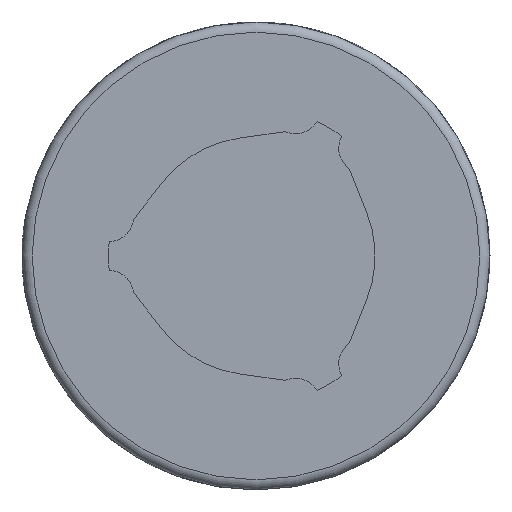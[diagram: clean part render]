
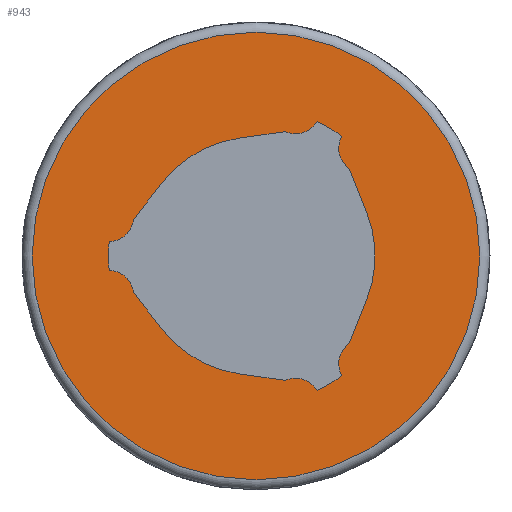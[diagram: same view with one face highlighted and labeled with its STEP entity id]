
A CAD part, left-side view. The second image highlights one B-rep face of the part: STEP entity #943.
In plain terms, the highlighted planar face has unit normal (-1, 0, 0).
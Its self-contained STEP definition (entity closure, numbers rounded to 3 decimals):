
#76=LINE('',#1439,#148);
#77=LINE('',#1448,#149);
#78=LINE('',#1452,#150);
#79=LINE('',#1460,#151);
#80=LINE('',#1464,#152);
#81=LINE('',#1472,#153);
#148=VECTOR('',#1141,1000.);
#149=VECTOR('',#1148,1000.);
#150=VECTOR('',#1151,1000.);
#151=VECTOR('',#1158,1000.);
#152=VECTOR('',#1161,1000.);
#153=VECTOR('',#1168,1000.);
#220=ORIENTED_EDGE('',*,*,#500,.F.);
#221=ORIENTED_EDGE('',*,*,#501,.T.);
#222=ORIENTED_EDGE('',*,*,#502,.F.);
#223=ORIENTED_EDGE('',*,*,#503,.T.);
#224=ORIENTED_EDGE('',*,*,#504,.F.);
#225=ORIENTED_EDGE('',*,*,#505,.T.);
#226=ORIENTED_EDGE('',*,*,#506,.T.);
#227=ORIENTED_EDGE('',*,*,#507,.T.);
#228=ORIENTED_EDGE('',*,*,#508,.F.);
#229=ORIENTED_EDGE('',*,*,#509,.T.);
#230=ORIENTED_EDGE('',*,*,#510,.F.);
#231=ORIENTED_EDGE('',*,*,#511,.T.);
#232=ORIENTED_EDGE('',*,*,#512,.T.);
#233=ORIENTED_EDGE('',*,*,#513,.T.);
#234=ORIENTED_EDGE('',*,*,#514,.F.);
#235=ORIENTED_EDGE('',*,*,#515,.T.);
#236=ORIENTED_EDGE('',*,*,#516,.F.);
#237=ORIENTED_EDGE('',*,*,#517,.T.);
#238=ORIENTED_EDGE('',*,*,#518,.T.);
#500=EDGE_CURVE('',#640,#640,#736,.T.);
#501=EDGE_CURVE('',#641,#642,#76,.T.);
#502=EDGE_CURVE('',#643,#642,#737,.T.);
#503=EDGE_CURVE('',#643,#644,#738,.T.);
#504=EDGE_CURVE('',#645,#644,#739,.T.);
#505=EDGE_CURVE('',#645,#646,#77,.T.);
#506=EDGE_CURVE('',#646,#647,#740,.T.);
#507=EDGE_CURVE('',#647,#648,#78,.T.);
#508=EDGE_CURVE('',#649,#648,#741,.T.);
#509=EDGE_CURVE('',#649,#650,#742,.T.);
#510=EDGE_CURVE('',#651,#650,#743,.T.);
#511=EDGE_CURVE('',#651,#652,#79,.T.);
#512=EDGE_CURVE('',#652,#653,#744,.T.);
#513=EDGE_CURVE('',#653,#654,#80,.T.);
#514=EDGE_CURVE('',#655,#654,#745,.T.);
#515=EDGE_CURVE('',#655,#656,#746,.T.);
#516=EDGE_CURVE('',#657,#656,#747,.T.);
#517=EDGE_CURVE('',#657,#658,#81,.T.);
#518=EDGE_CURVE('',#658,#641,#748,.T.);
#640=VERTEX_POINT('',#1438);
#641=VERTEX_POINT('',#1440);
#642=VERTEX_POINT('',#1441);
#643=VERTEX_POINT('',#1443);
#644=VERTEX_POINT('',#1445);
#645=VERTEX_POINT('',#1447);
#646=VERTEX_POINT('',#1449);
#647=VERTEX_POINT('',#1451);
#648=VERTEX_POINT('',#1453);
#649=VERTEX_POINT('',#1455);
#650=VERTEX_POINT('',#1457);
#651=VERTEX_POINT('',#1459);
#652=VERTEX_POINT('',#1461);
#653=VERTEX_POINT('',#1463);
#654=VERTEX_POINT('',#1465);
#655=VERTEX_POINT('',#1467);
#656=VERTEX_POINT('',#1469);
#657=VERTEX_POINT('',#1471);
#658=VERTEX_POINT('',#1473);
#736=CIRCLE('',#1023,11.);
#737=CIRCLE('',#1024,1.24);
#738=CIRCLE('',#1025,7.25);
#739=CIRCLE('',#1026,1.24);
#740=CIRCLE('',#1027,5.85);
#741=CIRCLE('',#1028,1.24);
#742=CIRCLE('',#1029,7.25);
#743=CIRCLE('',#1030,1.24);
#744=CIRCLE('',#1031,5.85);
#745=CIRCLE('',#1032,1.24);
#746=CIRCLE('',#1033,7.25);
#747=CIRCLE('',#1034,1.24);
#748=CIRCLE('',#1035,5.85);
#792=EDGE_LOOP('',(#220));
#793=EDGE_LOOP('',(#221,#222,#223,#224,#225,#226,#227,#228,#229,#230,#231,
#232,#233,#234,#235,#236,#237,#238));
#858=FACE_BOUND('',#792,.T.);
#859=FACE_BOUND('',#793,.T.);
#924=PLANE('',#1022);
#943=ADVANCED_FACE('',(#858,#859),#924,.F.);
#1022=AXIS2_PLACEMENT_3D('',#1436,#1137,#1138);
#1023=AXIS2_PLACEMENT_3D('',#1437,#1139,#1140);
#1024=AXIS2_PLACEMENT_3D('',#1442,#1142,#1143);
#1025=AXIS2_PLACEMENT_3D('',#1444,#1144,#1145);
#1026=AXIS2_PLACEMENT_3D('',#1446,#1146,#1147);
#1027=AXIS2_PLACEMENT_3D('',#1450,#1149,#1150);
#1028=AXIS2_PLACEMENT_3D('',#1454,#1152,#1153);
#1029=AXIS2_PLACEMENT_3D('',#1456,#1154,#1155);
#1030=AXIS2_PLACEMENT_3D('',#1458,#1156,#1157);
#1031=AXIS2_PLACEMENT_3D('',#1462,#1159,#1160);
#1032=AXIS2_PLACEMENT_3D('',#1466,#1162,#1163);
#1033=AXIS2_PLACEMENT_3D('',#1468,#1164,#1165);
#1034=AXIS2_PLACEMENT_3D('',#1470,#1166,#1167);
#1035=AXIS2_PLACEMENT_3D('',#1474,#1169,#1170);
#1137=DIRECTION('',(1.,0.,0.));
#1138=DIRECTION('',(0.,0.,-1.));
#1139=DIRECTION('',(1.,0.,0.));
#1140=DIRECTION('',(0.,0.,-1.));
#1141=DIRECTION('',(0.,-0.99,0.139));
#1142=DIRECTION('',(1.,0.,0.));
#1143=DIRECTION('',(0.,0.,-1.));
#1144=DIRECTION('',(1.,0.,0.));
#1145=DIRECTION('',(0.,0.,-1.));
#1146=DIRECTION('',(1.,0.,0.));
#1147=DIRECTION('',(0.,0.,-1.));
#1148=DIRECTION('',(0.,-0.375,-0.927));
#1149=DIRECTION('',(1.,0.,0.));
#1150=DIRECTION('',(0.,0.,-1.));
#1151=DIRECTION('',(0.,0.375,-0.927));
#1152=DIRECTION('',(1.,0.,0.));
#1153=DIRECTION('',(0.,0.,-1.));
#1154=DIRECTION('',(1.,0.,0.));
#1155=DIRECTION('',(0.,0.,-1.));
#1156=DIRECTION('',(1.,0.,0.));
#1157=DIRECTION('',(0.,0.,-1.));
#1158=DIRECTION('',(0.,0.99,0.139));
#1159=DIRECTION('',(1.,0.,0.));
#1160=DIRECTION('',(0.,0.,-1.));
#1161=DIRECTION('',(0.,0.616,0.788));
#1162=DIRECTION('',(1.,0.,0.));
#1163=DIRECTION('',(0.,0.,-1.));
#1164=DIRECTION('',(1.,0.,0.));
#1165=DIRECTION('',(0.,0.,-1.));
#1166=DIRECTION('',(1.,0.,0.));
#1167=DIRECTION('',(0.,0.,-1.));
#1168=DIRECTION('',(0.,-0.616,0.788));
#1169=DIRECTION('',(1.,0.,0.));
#1170=DIRECTION('',(0.,0.,-1.));
#1436=CARTESIAN_POINT('',(0.,0.,0.));
#1437=CARTESIAN_POINT('',(0.,0.,0.));
#1438=CARTESIAN_POINT('',(0.,0.,-11.));
#1439=CARTESIAN_POINT('',(0.,0.814,5.793));
#1440=CARTESIAN_POINT('',(0.,0.814,5.793));
#1441=CARTESIAN_POINT('',(0.,-1.443,6.11));
#1442=CARTESIAN_POINT('',(0.,-1.94,7.247));
#1443=CARTESIAN_POINT('',(0.,-2.998,6.601));
#1444=CARTESIAN_POINT('',(0.,0.,0.));
#1445=CARTESIAN_POINT('',(0.,-4.218,5.897));
#1446=CARTESIAN_POINT('',(0.,-5.306,5.303));
#1447=CARTESIAN_POINT('',(0.,-4.57,4.305));
#1448=CARTESIAN_POINT('',(0.,-4.57,4.305));
#1449=CARTESIAN_POINT('',(0.,-5.424,2.191));
#1450=CARTESIAN_POINT('',(0.,0.,0.));
#1451=CARTESIAN_POINT('',(0.,-5.424,-2.191));
#1452=CARTESIAN_POINT('',(0.,-5.424,-2.191));
#1453=CARTESIAN_POINT('',(0.,-4.57,-4.305));
#1454=CARTESIAN_POINT('',(0.,-5.306,-5.303));
#1455=CARTESIAN_POINT('',(0.,-4.218,-5.897));
#1456=CARTESIAN_POINT('',(0.,0.,0.));
#1457=CARTESIAN_POINT('',(0.,-2.998,-6.601));
#1458=CARTESIAN_POINT('',(0.,-1.94,-7.247));
#1459=CARTESIAN_POINT('',(0.,-1.443,-6.11));
#1460=CARTESIAN_POINT('',(0.,-1.443,-6.11));
#1461=CARTESIAN_POINT('',(0.,0.814,-5.793));
#1462=CARTESIAN_POINT('',(0.,0.,0.));
#1463=CARTESIAN_POINT('',(0.,4.61,-3.602));
#1464=CARTESIAN_POINT('',(0.,4.61,-3.602));
#1465=CARTESIAN_POINT('',(0.,6.013,-1.805));
#1466=CARTESIAN_POINT('',(0.,7.246,-1.944));
#1467=CARTESIAN_POINT('',(0.,7.216,-0.704));
#1468=CARTESIAN_POINT('',(0.,0.,0.));
#1469=CARTESIAN_POINT('',(0.,7.216,0.704));
#1470=CARTESIAN_POINT('',(0.,7.246,1.944));
#1471=CARTESIAN_POINT('',(0.,6.013,1.805));
#1472=CARTESIAN_POINT('',(0.,6.013,1.805));
#1473=CARTESIAN_POINT('',(0.,4.61,3.602));
#1474=CARTESIAN_POINT('',(0.,0.,0.));
